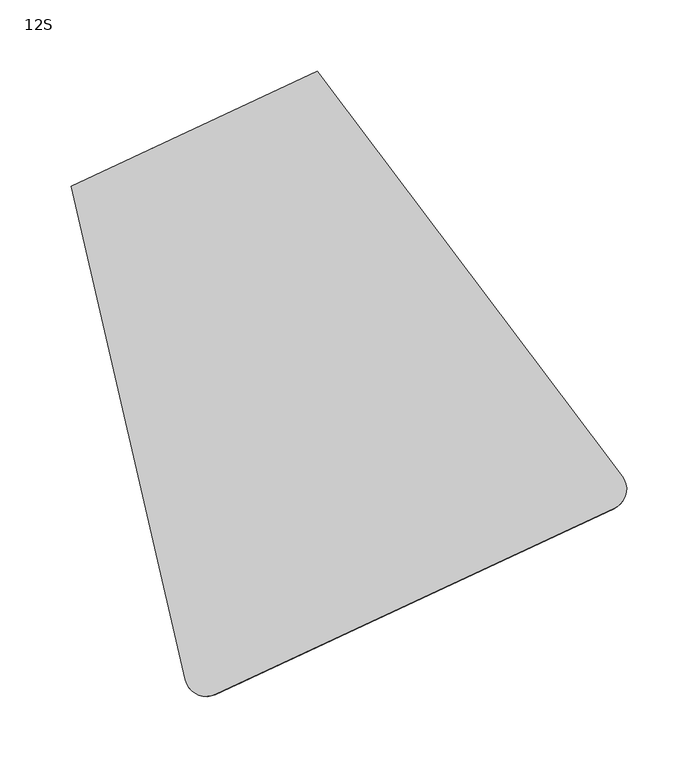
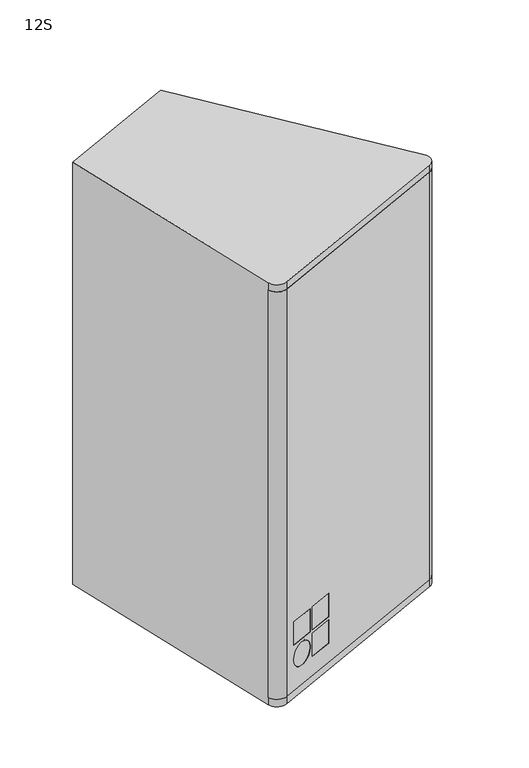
"""IFC4 building model written with IfcOpenShell, lengths in millimetres: proxy geometry, d&b xS-Series 12S Point Source : 12S."""

from ifc_helpers import new_model, si_unit, point, frame, frame_2d, origin, place, context, project, spatial, polyline, circle_curve, trimmed, segment, composite_curve, outline, extrude, source, transform, mapped, element, save
from ifc_brep_helpers import plane_surface, cylinder_surface, revolved_surface, advanced_brep


def proxy_12s_bca86ed1(model_context):
    return source(origin(), model_context, "Body", "SolidModel", [
        extrude(outline(composite_curve([segment(trimmed(circle_curve(frame_2d((210.3386985, -86.7332555)), 10.0), [point((217.6317515, -79.8913715))], [point((214.5648811, -95.7963334))], False, "CARTESIAN"), True, "CONTINUOUS"), segment(polyline([(214.5648811, -95.7963334), (-64.5353982, -225.942931)]), True, "CONTINUOUS"), segment(trimmed(circle_curve(frame_2d((-68.7615808, -216.8798531)), 10.0), [point((-64.5353982, -225.942931))], [point((-78.6906522, -218.0687776))], False, "CARTESIAN"), True, "CONTINUOUS"), segment(polyline([(-78.6906522, -218.0687776), (217.6317515, -79.8913715)]), True, "CONTINUOUS")], self_intersect=False)), frame((0.0, 0.0, -311.0), z_axis=(0.0, 0.0, 1.0), x_axis=(1.0, 0.0, 0.0)), (0.0, 0.0, 1.0), 622.0),
        advanced_brep(
        [(-16.8098425, -209.2050285, -204.0), (-18.9229338, -204.6734896, -204.0), (-18.9229338, -204.6734896, -239.0), (-16.8098425, -209.2050285, -239.0), (-50.6437064, -219.4651287, -239.0), (-48.5306151, -223.9966677, -239.0), (-50.6437064, -219.4651287, -204.0), (-48.5306151, -223.9966677, -204.0), (19.442469, -192.300298, -204.0), (17.3293777, -187.7687591, -204.0), (17.3293777, -187.7687591, -239.0), (19.442469, -192.300298, -239.0), (-14.3913949, -202.5603983, -239.0), (-12.2783036, -207.0919372, -239.0), (-14.3913949, -202.5603983, -204.0), (-12.2783036, -207.0919372, -204.0), (19.442469, -192.300298, -244.0), (17.3293777, -187.7687591, -244.0), (17.3293777, -187.7687591, -279.0), (19.442469, -192.300298, -279.0), (-14.3913949, -202.5603983, -279.0), (-12.2783036, -207.0919372, -279.0), (-14.3913949, -202.5603983, -244.0), (-12.2783036, -207.0919372, -244.0), (-32.6702288, -216.6008481, -279.0), (-34.7833201, -212.0693092, -279.0), (-34.7833201, -212.0693092, -244.0), (-32.6702288, -216.6008481, -244.0), (-78.6906522, -218.0687776, 308.0), (-83.3771318, -220.2541189, 308.0), (-62.4223069, -230.4744699, 308.0), (216.6779724, -100.3278723, 308.0), (222.3182311, -77.7060302, 308.0), (217.6317515, -79.8913715, 308.0), (214.5648811, -95.7963334, 308.0), (-64.5353982, -225.942931, 308.0), (-78.6906522, -218.0687776, -308.0), (-64.5353982, -225.942931, -308.0), (214.5648811, -95.7963334, -308.0), (217.6317515, -79.8913715, -308.0), (222.3182311, -77.7060302, -308.0), (216.6779724, -100.3278723, -308.0), (-62.4223069, -230.4744699, -308.0), (-83.3771318, -220.2541189, -308.0)],
        [
            (0, 1),
            (1, 2),
            (2, 3),
            (3, 0),
            (2, 4),
            (4, 5),
            (5, 3),
            (4, 6),
            (6, 7),
            (7, 5),
            (0, 7),
            (6, 1),
            (8, 9),
            (9, 10),
            (10, 11),
            (11, 8),
            (10, 12),
            (12, 13),
            (13, 11),
            (12, 14),
            (14, 15),
            (15, 13),
            (8, 15),
            (14, 9),
            (16, 17),
            (17, 18),
            (18, 19),
            (19, 16),
            (18, 20),
            (20, 21),
            (21, 19),
            (20, 22),
            (22, 23),
            (23, 21),
            (16, 23),
            (22, 17),
            (24, 25),
            (25, 26, circle_curve(frame((-34.7833201, -212.0693092, -261.5), z_axis=(-0.4226182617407, 0.9063077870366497, 0.0), x_axis=(0.0, 0.0, 1.0)), 17.5)),
            (26, 27),
            (27, 24, circle_curve(frame((-32.6702288, -216.6008481, -261.5), z_axis=(0.4226182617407, -0.9063077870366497, 0.0), x_axis=(0.0, 0.0, 1.0)), 17.5)),
            (24, 27, circle_curve(frame((-32.6702288, -216.6008481, -261.5), z_axis=(0.4226182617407, -0.9063077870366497, 0.0), x_axis=(0.0, 0.0, 1.0)), 17.5)),
            (26, 25, circle_curve(frame((-34.7833201, -212.0693092, -261.5), z_axis=(-0.4226182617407, 0.9063077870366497, 0.0), x_axis=(0.0, 0.0, 1.0)), 17.5)),
            (28, 29),
            (29, 30, circle_curve(frame((-68.7615808, -216.8798531, 308.0), z_axis=(0.0, 0.0, 1.0), x_axis=(0.4226182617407, -0.9063077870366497, 0.0)), 15.0)),
            (30, 31),
            (31, 32, circle_curve(frame((210.3386985, -86.7332555, 308.0), z_axis=(0.0, 0.0, 1.0), x_axis=(0.4226182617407, -0.9063077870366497, 0.0)), 15.0)),
            (32, 33),
            (33, 34, circle_curve(frame((210.3386985, -86.7332555, 308.0), z_axis=(0.0, 0.0, -1.0), x_axis=(0.4226182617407, -0.9063077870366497, 0.0)), 10.0)),
            (34, 35),
            (35, 28, circle_curve(frame((-68.7615808, -216.8798531, 308.0), z_axis=(0.0, 0.0, -1.0), x_axis=(0.4226182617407, -0.9063077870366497, 0.0)), 10.0)),
            (36, 37, circle_curve(frame((-68.7615808, -216.8798531, -308.0), z_axis=(0.0, 0.0, 1.0), x_axis=(0.4226182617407, -0.9063077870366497, 0.0)), 10.0)),
            (37, 38),
            (38, 39, circle_curve(frame((210.3386985, -86.7332555, -308.0), z_axis=(0.0, 0.0, 1.0), x_axis=(0.4226182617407, -0.9063077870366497, 0.0)), 10.0)),
            (39, 40),
            (40, 41, circle_curve(frame((210.3386985, -86.7332555, -308.0), z_axis=(0.0, 0.0, -1.0), x_axis=(0.4226182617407, -0.9063077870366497, 0.0)), 15.0)),
            (41, 42),
            (42, 43, circle_curve(frame((-68.7615808, -216.8798531, -308.0), z_axis=(0.0, 0.0, -1.0), x_axis=(0.4226182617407, -0.9063077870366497, 0.0)), 15.0)),
            (43, 36),
            (28, 36),
            (43, 29),
            (42, 30),
            (41, 31),
            (40, 32),
            (39, 33),
            (38, 34),
            (37, 35),
        ],
        [
            plane_surface(frame((-16.8098425, -209.2050285, -239.0), z_axis=(-0.9063077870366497, -0.4226182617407, 0.0), x_axis=(-0.4226182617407, 0.9063077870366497, 0.0))),
            plane_surface(frame((-48.5306151, -223.9966677, -239.0), z_axis=(0.0, 0.0, 1.0), x_axis=(-0.4226182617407, 0.9063077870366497, 0.0))),
            plane_surface(frame((-48.5306151, -223.9966677, -204.0), z_axis=(0.9063077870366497, 0.4226182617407, 0.0), x_axis=(-0.4226182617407, 0.9063077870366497, 0.0))),
            plane_surface(frame((-16.8098425, -209.2050285, -204.0), z_axis=(0.0, 0.0, -1.0), x_axis=(-0.4226182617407, 0.9063077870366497, 0.0))),
            plane_surface(frame((19.442469, -192.300298, -239.0), z_axis=(-0.9063077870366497, -0.4226182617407, 0.0), x_axis=(-0.4226182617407, 0.9063077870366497, 0.0))),
            plane_surface(frame((-12.2783036, -207.0919372, -239.0), z_axis=(0.0, 0.0, 1.0), x_axis=(-0.4226182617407, 0.9063077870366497, 0.0))),
            plane_surface(frame((-12.2783036, -207.0919372, -204.0), z_axis=(0.9063077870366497, 0.4226182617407, 0.0), x_axis=(-0.4226182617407, 0.9063077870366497, 0.0))),
            plane_surface(frame((19.442469, -192.300298, -204.0), z_axis=(0.0, 0.0, -1.0), x_axis=(-0.4226182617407, 0.9063077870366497, 0.0))),
            plane_surface(frame((19.442469, -192.300298, -279.0), z_axis=(-0.9063077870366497, -0.4226182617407, 0.0), x_axis=(-0.4226182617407, 0.9063077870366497, 0.0))),
            plane_surface(frame((-12.2783036, -207.0919372, -279.0), z_axis=(0.0, 0.0, 1.0), x_axis=(-0.4226182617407, 0.9063077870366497, 0.0))),
            plane_surface(frame((-12.2783036, -207.0919372, -244.0), z_axis=(0.9063077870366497, 0.4226182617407, 0.0), x_axis=(-0.4226182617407, 0.9063077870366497, 0.0))),
            plane_surface(frame((19.442469, -192.300298, -244.0), z_axis=(0.0, 0.0, -1.0), x_axis=(-0.4226182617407, 0.9063077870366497, 0.0))),
            revolved_surface(polyline([(-32.67022881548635, -216.60084810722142, -244.0), (-34.78332010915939, -212.0693092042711, -244.0)]), (-46.5119454, -186.9171911, -261.5), (0.4226182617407, -0.9063077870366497, 0.0)),
            plane_surface(frame((-83.3771318, -220.2541189, 308.0), z_axis=(0.0, 0.0, 1.0), x_axis=(-0.9063077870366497, -0.4226182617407, 0.0))),
            plane_surface(frame((-83.3771318, -220.2541189, -308.0), z_axis=(0.0, 0.0, -1.0), x_axis=(0.9063077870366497, 0.4226182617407, 0.0))),
            plane_surface(frame((-78.6906522, -218.0687776, 308.0), z_axis=(-0.4226182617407, 0.9063077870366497, 0.0), x_axis=(0.0, 0.0, -1.0))),
            cylinder_surface(frame((-68.7615808, -216.8798531, -308.0), z_axis=(0.0, 0.0, 1.0), x_axis=(0.4226182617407, -0.9063077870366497, 0.0)), 15.0),
            plane_surface(frame((-62.4223069, -230.4744699, 308.0), z_axis=(0.42261826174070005, -0.9063077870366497, 0.0), x_axis=(0.0, 0.0, -1.0))),
            cylinder_surface(frame((210.3386985, -86.7332555, -308.0), z_axis=(0.0, 0.0, 1.0), x_axis=(0.4226182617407, -0.9063077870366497, 0.0)), 15.0),
            plane_surface(frame((222.3182311, -77.7060302, 308.0), z_axis=(-0.4226182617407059, 0.9063077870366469, 0.0), x_axis=(0.0, 0.0, -1.0))),
            revolved_surface(polyline([(214.564881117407, -95.7963333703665, -308.0), (214.564881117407, -95.7963333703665, 308.0)]), (210.3386985, -86.7332555, -308.0), (0.0, 0.0, -1.0)),
            plane_surface(frame((214.5648811, -95.7963334, 308.0), z_axis=(-0.4226182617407, 0.9063077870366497, 0.0), x_axis=(0.0, 0.0, -1.0))),
            revolved_surface(polyline([(-64.535398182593, -225.9429309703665, -308.0), (-64.535398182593, -225.9429309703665, 308.0)]), (-68.7615808, -216.8798531, -308.0), (0.0, 0.0, -1.0)),
        ],
        [
            (0, [[1, 2, 3, 4]]),
            (1, [[-3, 5, 6, 7]]),
            (2, [[-6, 8, 9, 10]]),
            (3, [[-1, 11, -9, 12]]),
            (4, [[13, 14, 15, 16]]),
            (5, [[-15, 17, 18, 19]]),
            (6, [[-18, 20, 21, 22]]),
            (7, [[-13, 23, -21, 24]]),
            (8, [[25, 26, 27, 28]]),
            (9, [[-27, 29, 30, 31]]),
            (10, [[-30, 32, 33, 34]]),
            (11, [[-25, 35, -33, 36]]),
            (12, [[37, 38, 39, 40]]),
            (12, [[-37, 41, -39, 42]]),
            (13, [[43, 44, 45, 46, 47, 48, 49, 50]]),
            (14, [[51, 52, 53, 54, 55, 56, 57, 58]]),
            (15, [[-43, 59, -58, 60]]),
            (16, [[-44, -60, -57, 61]]),
            (17, [[-45, -61, -56, 62], [-4, -7, -10, -11], [-16, -19, -22, -23], [-28, -31, -34, -35], [-40, -41]]),
            (18, [[-46, -62, -55, 63]]),
            (19, [[-47, -63, -54, 64]]),
            (20, [[-48, -64, -53, 65]]),
            (21, [[-49, -65, -52, 66], [-2, -12, -8, -5], [-14, -24, -20, -17], [-26, -36, -32, -29], [-38, -42]]),
            (22, [[-50, -66, -51, -59]]),
        ],
    ),
        extrude(outline(polyline([(-16.8098425, -209.2050285), (-48.5306151, -223.9966677), (-50.6437064, -219.4651287), (-18.9229338, -204.6734896), (-16.8098425, -209.2050285)])), frame((0.0, 0.0, -239.0), z_axis=(0.0, 0.0, 1.0), x_axis=(1.0, 0.0, 0.0)), (0.0, 0.0, 1.0), 35.0),
        extrude(outline(polyline([(19.442469, -192.300298), (-12.2783036, -207.0919372), (-14.3913949, -202.5603983), (17.3293777, -187.7687591), (19.442469, -192.300298)])), frame((0.0, 0.0, -239.0), z_axis=(0.0, 0.0, 1.0), x_axis=(1.0, 0.0, 0.0)), (0.0, 0.0, 1.0), 35.0),
        extrude(outline(polyline([(19.442469, -192.300298), (-12.2783036, -207.0919372), (-14.3913949, -202.5603983), (17.3293777, -187.7687591), (19.442469, -192.300298)])), frame((0.0, 0.0, -279.0), z_axis=(0.0, 0.0, 1.0), x_axis=(1.0, 0.0, 0.0)), (0.0, 0.0, 1.0), 35.0),
        extrude(outline(composite_curve([segment(trimmed(circle_curve(frame_2d((-12.5, -57.5)), 17.5), [point((-12.5, -75.0))], [point((-12.5, -40.0))], False, "CARTESIAN"), True, "CONTINUOUS"), segment(trimmed(circle_curve(frame_2d((-12.5, -57.5)), 17.5), [point((-12.5, -40.0))], [point((-12.5, -75.0))], False, "CARTESIAN"), True, "CONTINUOUS")], self_intersect=False)), frame((-43.9990761, -221.8835764, -204.0), z_axis=(-0.4226182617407, 0.9063077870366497, 0.0), x_axis=(-0.9063077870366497, -0.4226182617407, 0.0)), (0.0, 0.0, 1.0), 5.0),
        advanced_brep(
        [(-163.1517176, 125.2875749, -319.0), (8.896052, 205.5147674, -319.0), (222.3182311, -77.7060302, -319.0), (216.6779724, -100.3278723, -319.0), (-62.4223069, -230.4744699, -319.0), (-83.3771318, -220.2541189, -319.0), (-163.1517176, 125.2875749, 319.0), (-83.3771318, -220.2541189, 319.0), (-62.4223069, -230.4744699, 319.0), (216.6779724, -100.3278723, 319.0), (222.3182311, -77.7060302, 319.0), (8.896052, 205.5147674, 319.0), (-107.5807505, 147.8906086, 131.0), (-99.4239804, 151.694173, 140.0), (-52.2959755, 173.6703226, 140.0), (-44.1392054, 177.4738869, 131.0), (-44.1392054, 177.4738869, 39.0), (-52.2959755, 173.6703226, 30.0), (-99.4239804, 151.694173, 30.0), (-107.5807505, 147.8906086, 39.0), (-99.3963672, 151.7070493, 48.5), (-88.5206737, 156.7784684, 36.5), (-63.1992822, 168.5860272, 36.5), (-52.3235888, 173.6574463, 48.5), (-52.3235888, 173.6574463, 122.5), (-63.1992822, 168.5860272, 134.5), (-88.5206737, 156.7784684, 134.5), (-99.3963672, 151.7070493, 122.5), (-108.8486053, 150.609532, 131.0), (-100.6918352, 154.4130963, 140.0), (-53.5638303, 176.3892459, 140.0), (-45.4070602, 180.1928103, 131.0), (-45.4070602, 180.1928103, 39.0), (-53.5638303, 176.3892459, 30.0), (-100.6918352, 154.4130963, 30.0), (-108.8486053, 150.609532, 39.0), (-80.4909267, 139.5586204, 36.5), (-91.3666202, 134.4872013, 48.5), (-91.3666202, 134.4872013, 122.5), (-80.4909267, 139.5586204, 134.5), (-55.1695353, 151.3661792, 134.5), (-44.2938418, 156.4375983, 122.5), (-44.2938418, 156.4375983, 48.5), (-55.1695353, 151.3661792, 36.5), (222.3182311, -77.7060302, 308.0), (216.6779724, -100.3278723, 308.0), (-62.4223069, -230.4744699, 308.0), (-83.3771318, -220.2541189, 308.0), (-83.3771318, -220.2541189, -308.0), (-62.4223069, -230.4744699, -308.0), (216.6779724, -100.3278723, -308.0), (222.3182311, -77.7060302, -308.0)],
        [
            (0, 1),
            (1, 2),
            (2, 3, circle_curve(frame((210.3386985, -86.7332555, -319.0), z_axis=(0.0, 0.0, -1.0), x_axis=(0.4226182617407, -0.9063077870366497, 0.0)), 15.0)),
            (3, 4),
            (4, 5, circle_curve(frame((-68.7615808, -216.8798531, -319.0), z_axis=(0.0, 0.0, -1.0), x_axis=(0.4226182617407, -0.9063077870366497, 0.0)), 15.0)),
            (5, 0),
            (6, 7),
            (7, 8, circle_curve(frame((-68.7615808, -216.8798531, 319.0), z_axis=(0.0, 0.0, 1.0), x_axis=(0.4226182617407, -0.9063077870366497, 0.0)), 15.0)),
            (8, 9),
            (9, 10, circle_curve(frame((210.3386985, -86.7332555, 319.0), z_axis=(0.0, 0.0, 1.0), x_axis=(0.4226182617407, -0.9063077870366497, 0.0)), 15.0)),
            (10, 11),
            (11, 6),
            (12, 13, circle_curve(frame((-99.4239804, 151.694173, 131.0), z_axis=(-0.42261826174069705, 0.906307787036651, 0.0), x_axis=(-0.906307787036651, -0.42261826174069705, 0.0)), 9.0)),
            (13, 14),
            (14, 15, circle_curve(frame((-52.2959755, 173.6703226, 131.0), z_axis=(-0.42261826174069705, 0.906307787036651, 0.0), x_axis=(-0.906307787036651, -0.42261826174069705, 0.0)), 9.0)),
            (15, 16),
            (16, 17, circle_curve(frame((-52.2959755, 173.6703226, 39.0), z_axis=(-0.42261826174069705, 0.906307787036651, 0.0), x_axis=(-0.906307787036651, -0.42261826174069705, 0.0)), 9.0)),
            (17, 18),
            (18, 19, circle_curve(frame((-99.4239804, 151.694173, 39.0), z_axis=(-0.42261826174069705, 0.906307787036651, 0.0), x_axis=(-0.906307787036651, -0.42261826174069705, 0.0)), 9.0)),
            (19, 12),
            (20, 21, circle_curve(frame((-88.5206737, 156.7784684, 48.5), z_axis=(0.42261826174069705, -0.906307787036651, 0.0), x_axis=(-0.906307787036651, -0.42261826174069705, 0.0)), 12.0)),
            (21, 22),
            (22, 23, circle_curve(frame((-63.1992822, 168.5860272, 48.5), z_axis=(0.42261826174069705, -0.906307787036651, 0.0), x_axis=(-0.906307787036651, -0.42261826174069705, 0.0)), 12.0)),
            (23, 24),
            (24, 25, circle_curve(frame((-63.1992822, 168.5860272, 122.5), z_axis=(0.42261826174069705, -0.906307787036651, 0.0), x_axis=(-0.906307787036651, -0.42261826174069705, 0.0)), 12.0)),
            (25, 26),
            (26, 27, circle_curve(frame((-88.5206737, 156.7784684, 122.5), z_axis=(0.42261826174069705, -0.906307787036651, 0.0), x_axis=(-0.906307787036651, -0.42261826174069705, 0.0)), 12.0)),
            (27, 20),
            (12, 28),
            (28, 29, circle_curve(frame((-100.6918352, 154.4130963, 131.0), z_axis=(-0.42261826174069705, 0.906307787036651, 0.0), x_axis=(-0.906307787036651, -0.42261826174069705, 0.0)), 9.0)),
            (29, 13),
            (29, 30),
            (30, 14),
            (30, 31, circle_curve(frame((-53.5638303, 176.3892459, 131.0), z_axis=(-0.42261826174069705, 0.906307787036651, 0.0), x_axis=(-0.906307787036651, -0.42261826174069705, 0.0)), 9.0)),
            (31, 15),
            (31, 32),
            (32, 16),
            (32, 33, circle_curve(frame((-53.5638303, 176.3892459, 39.0), z_axis=(-0.42261826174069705, 0.906307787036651, 0.0), x_axis=(-0.906307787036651, -0.42261826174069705, 0.0)), 9.0)),
            (33, 17),
            (33, 34),
            (34, 18),
            (34, 35, circle_curve(frame((-100.6918352, 154.4130963, 39.0), z_axis=(-0.42261826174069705, 0.906307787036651, 0.0), x_axis=(-0.906307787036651, -0.42261826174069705, 0.0)), 9.0)),
            (35, 19),
            (35, 28),
            (36, 37, circle_curve(frame((-80.4909267, 139.5586204, 48.5), z_axis=(-0.42261826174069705, 0.906307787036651, 0.0), x_axis=(-0.906307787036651, -0.42261826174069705, 0.0)), 12.0)),
            (37, 38),
            (38, 39, circle_curve(frame((-80.4909267, 139.5586204, 122.5), z_axis=(-0.42261826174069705, 0.906307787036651, 0.0), x_axis=(-0.906307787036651, -0.42261826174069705, 0.0)), 12.0)),
            (39, 40),
            (40, 41, circle_curve(frame((-55.1695353, 151.3661792, 122.5), z_axis=(-0.42261826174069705, 0.906307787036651, 0.0), x_axis=(-0.906307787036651, -0.42261826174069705, 0.0)), 12.0)),
            (41, 42),
            (42, 43, circle_curve(frame((-55.1695353, 151.3661792, 48.5), z_axis=(-0.42261826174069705, 0.906307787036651, 0.0), x_axis=(-0.906307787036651, -0.42261826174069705, 0.0)), 12.0)),
            (43, 36),
            (44, 45, circle_curve(frame((210.3386985, -86.7332555, 308.0), z_axis=(0.0, 0.0, -1.0), x_axis=(0.4226182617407, -0.9063077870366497, 0.0)), 15.0)),
            (45, 46),
            (46, 47, circle_curve(frame((-68.7615808, -216.8798531, 308.0), z_axis=(0.0, 0.0, -1.0), x_axis=(0.4226182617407, -0.9063077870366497, 0.0)), 15.0)),
            (47, 44),
            (48, 49, circle_curve(frame((-68.7615808, -216.8798531, -308.0), z_axis=(0.0, 0.0, 1.0), x_axis=(0.4226182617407, -0.9063077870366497, 0.0)), 15.0)),
            (49, 50),
            (50, 51, circle_curve(frame((210.3386985, -86.7332555, -308.0), z_axis=(0.0, 0.0, 1.0), x_axis=(0.4226182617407, -0.9063077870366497, 0.0)), 15.0)),
            (51, 48),
            (36, 21),
            (20, 37),
            (27, 38),
            (26, 39),
            (25, 40),
            (24, 41),
            (23, 42),
            (22, 43),
            (0, 6),
            (11, 1),
            (10, 44),
            (44, 51),
            (51, 2),
            (47, 48),
            (5, 48),
            (47, 7),
            (46, 8),
            (45, 9),
            (4, 49),
            (3, 50),
        ],
        [
            plane_surface(frame((-163.1517176, 125.2875749, -319.0), z_axis=(0.0, 0.0, -1.0), x_axis=(0.9063077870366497, 0.4226182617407, 0.0))),
            plane_surface(frame((-163.1517176, 125.2875749, 319.0), z_axis=(0.0, 0.0, 1.0), x_axis=(-0.9063077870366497, -0.4226182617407, 0.0))),
            plane_surface(frame((-107.5807505, 147.8906086, 131.0), z_axis=(-0.42261826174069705, 0.906307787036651, 0.0), x_axis=(0.0, 0.0, -1.0))),
            revolved_surface(polyline([(-108.84860527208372, 150.60953201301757, 131.0), (-107.58075046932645, 147.89060861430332, 131.0)]), (-99.4239804, 151.694173, 131.0), (-0.42261826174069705, 0.906307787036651, 0.0)),
            plane_surface(frame((-100.6918352, 154.4130963, 140.0), z_axis=(0.0, 0.0, -1.0), x_axis=(0.4226182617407, -0.9063077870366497, 0.0))),
            revolved_surface(polyline([(-61.720600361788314, 172.585681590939, 131.0), (-60.45274555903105, 169.86675819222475, 131.0)]), (-52.2959755, 173.6703226, 131.0), (-0.42261826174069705, 0.906307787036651, 0.0)),
            plane_surface(frame((-45.4070602, 180.1928103, 131.0), z_axis=(-0.9063077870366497, -0.4226182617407, 0.0), x_axis=(0.4226182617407, -0.9063077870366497, 0.0))),
            revolved_surface(polyline([(-61.720600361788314, 172.585681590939, 39.0), (-60.45274555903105, 169.86675819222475, 39.0)]), (-52.2959755, 173.6703226, 39.0), (-0.42261826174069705, 0.906307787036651, 0.0)),
            plane_surface(frame((-53.5638303, 176.3892459, 30.0), z_axis=(0.0, 0.0, 1.0), x_axis=(0.4226182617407, -0.9063077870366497, 0.0))),
            revolved_surface(polyline([(-108.84860527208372, 150.60953201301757, 39.0), (-107.58075046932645, 147.89060861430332, 39.0)]), (-99.4239804, 151.694173, 39.0), (-0.42261826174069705, 0.906307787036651, 0.0)),
            plane_surface(frame((-108.8486053, 150.609532, 39.0), z_axis=(0.9063077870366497, 0.4226182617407, 0.0), x_axis=(0.4226182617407, -0.9063077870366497, 0.0))),
            plane_surface(frame((-91.3666202, 134.4872013, 48.5), z_axis=(-0.42261826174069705, 0.906307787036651, 0.0), x_axis=(0.0, 0.0, -1.0))),
            plane_surface(frame((-83.3771318, -220.2541189, 308.0), z_axis=(0.0, 0.0, -1.0), x_axis=(0.9063077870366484, 0.4226182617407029, 0.0))),
            plane_surface(frame((214.5648811, -95.7963334, -308.0), z_axis=(0.0, 0.0, 1.0), x_axis=(0.9063077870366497, 0.42261826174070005, 0.0))),
            revolved_surface(polyline([(-99.39636716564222, 151.70704931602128, 48.5), (-91.36662014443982, 134.48720125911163, 48.5)]), (-80.4909267, 139.5586204, 48.5), (-0.42261826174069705, 0.906307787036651, 0.0)),
            plane_surface(frame((-99.3963672, 151.7070493, 48.5), z_axis=(0.9063077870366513, 0.4226182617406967, 0.0), x_axis=(0.4226182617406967, -0.9063077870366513, 0.0))),
            revolved_surface(polyline([(-99.39636716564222, 151.70704931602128, 122.5), (-91.36662014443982, 134.48720125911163, 122.5)]), (-80.4909267, 139.5586204, 122.5), (-0.42261826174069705, 0.906307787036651, 0.0)),
            plane_surface(frame((-88.5206737, 156.7784684, 134.5), z_axis=(0.0, 0.0, -1.0), x_axis=(0.4226182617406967, -0.9063077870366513, 0.0))),
            revolved_surface(polyline([(-74.07497572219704, 163.51460802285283, 122.5), (-66.04522871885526, 146.2947600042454, 122.5)]), (-55.1695353, 151.3661792, 122.5), (-0.42261826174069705, 0.906307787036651, 0.0)),
            plane_surface(frame((-52.3235888, 173.6574463, 122.5), z_axis=(-0.9063077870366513, -0.4226182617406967, 0.0), x_axis=(0.4226182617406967, -0.9063077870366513, 0.0))),
            revolved_surface(polyline([(-74.07497572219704, 163.51460802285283, 48.5), (-66.04522871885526, 146.2947600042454, 48.5)]), (-55.1695353, 151.3661792, 48.5), (-0.42261826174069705, 0.906307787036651, 0.0)),
            plane_surface(frame((-63.1992822, 168.5860272, 36.5), z_axis=(0.0, 0.0, 1.0), x_axis=(0.4226182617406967, -0.9063077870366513, 0.0))),
            plane_surface(frame((-163.1517176, 125.2875749, -319.0), z_axis=(-0.4226182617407, 0.9063077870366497, 0.0), x_axis=(0.0, 0.0, 1.0))),
            plane_surface(frame((8.896052, 205.5147674, -319.0), z_axis=(0.7986355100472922, 0.6018150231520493, 0.0), x_axis=(0.0, 0.0, 1.0))),
            plane_surface(frame((222.3182311, -77.7060302, -319.0), z_axis=(0.422618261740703, -0.9063077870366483, 0.0), x_axis=(0.0, 0.0, 1.0))),
            plane_surface(frame((-83.3771318, -220.2541189, -319.0), z_axis=(-0.9743700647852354, -0.224951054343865, 0.0), x_axis=(0.0, 0.0, 1.0))),
            cylinder_surface(frame((-68.7615808, -216.8798531, 308.0), z_axis=(0.0, 0.0, 1.0), x_axis=(0.4226182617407, -0.9063077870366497, 0.0)), 15.0),
            plane_surface(frame((-62.4223069, -230.4744699, 319.0), z_axis=(0.42261826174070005, -0.9063077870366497, 0.0), x_axis=(0.0, 0.0, -1.0))),
            cylinder_surface(frame((210.3386985, -86.7332555, 308.0), z_axis=(0.0, 0.0, 1.0), x_axis=(0.4226182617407, -0.9063077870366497, 0.0)), 15.0),
            cylinder_surface(frame((-68.7615808, -216.8798531, -319.0), z_axis=(0.0, 0.0, 1.0), x_axis=(0.4226182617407, -0.9063077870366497, 0.0)), 15.0),
            plane_surface(frame((-62.4223069, -230.4744699, -308.0), z_axis=(0.42261826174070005, -0.9063077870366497, 0.0), x_axis=(0.0, 0.0, -1.0))),
            cylinder_surface(frame((210.3386985, -86.7332555, -319.0), z_axis=(0.0, 0.0, 1.0), x_axis=(0.4226182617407, -0.9063077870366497, 0.0)), 15.0),
        ],
        [
            (0, [[1, 2, 3, 4, 5, 6]]),
            (1, [[7, 8, 9, 10, 11, 12]]),
            (2, [[13, 14, 15, 16, 17, 18, 19, 20], [21, 22, 23, 24, 25, 26, 27, 28]]),
            (3, [[-13, 29, 30, 31]]),
            (4, [[-14, -31, 32, 33]]),
            (5, [[-15, -33, 34, 35]]),
            (6, [[-16, -35, 36, 37]]),
            (7, [[-17, -37, 38, 39]]),
            (8, [[-18, -39, 40, 41]]),
            (9, [[-19, -41, 42, 43]]),
            (10, [[-20, -43, 44, -29]]),
            (11, [[45, 46, 47, 48, 49, 50, 51, 52]]),
            (12, [[53, 54, 55, 56]]),
            (13, [[57, 58, 59, 60]]),
            (14, [[-45, 61, -21, 62]]),
            (15, [[-46, -62, -28, 63]]),
            (16, [[-47, -63, -27, 64]]),
            (17, [[-48, -64, -26, 65]]),
            (18, [[-49, -65, -25, 66]]),
            (19, [[-50, -66, -24, 67]]),
            (20, [[-51, -67, -23, 68]]),
            (21, [[-52, -68, -22, -61]]),
            (22, [[-1, 69, -12, 70], [-30, -44, -42, -40, -38, -36, -34, -32]]),
            (23, [[-2, -70, -11, 71, 72, 73]]),
            (24, [[-56, 74, -60, -72]]),
            (25, [[-6, 75, -74, 76, -7, -69]]),
            (26, [[-8, -76, -55, 77]]),
            (27, [[-9, -77, -54, 78]]),
            (28, [[-10, -78, -53, -71]]),
            (29, [[-57, -75, -5, 79]]),
            (30, [[-58, -79, -4, 80]]),
            (31, [[-59, -80, -3, -73]]),
        ],
    ),
    ])


if __name__ == "__main__":
    model = new_model("IFC4")
    model_context = context("Model", 3, world=origin())
    ifc_project = project(units=[si_unit("LENGTHUNIT", "METRE", prefix="MILLI")], contexts=[model_context])
    site = spatial("IfcSite", under=ifc_project)
    building = spatial("IfcBuilding", under=site)
    placement = place(None, origin())
    proxy_12s_shape = proxy_12s_bca86ed1(model_context)
    element("IfcBuildingElementProxy", 1, Name="d&b xS-Series 12S Point Source : 12S", ObjectType="d&b xS-Series 12S Point Source : 12S", at=placement, inside=building, context=model_context, shape_type="MappedRepresentation", body=[
        mapped(proxy_12s_shape, transform((0.0, 0.0, 0.0), x_axis=(1.0, 0.0, 0.0), y_axis=(0.0, 1.0, 0.0), z_axis=(0.0, 0.0, 1.0))),
    ])
    save(model, "model.ifc")
